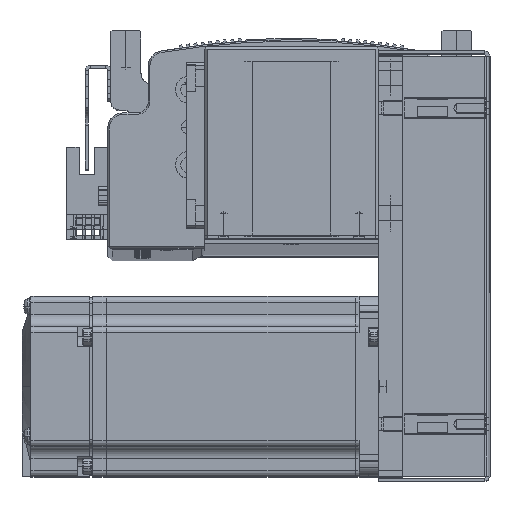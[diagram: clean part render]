
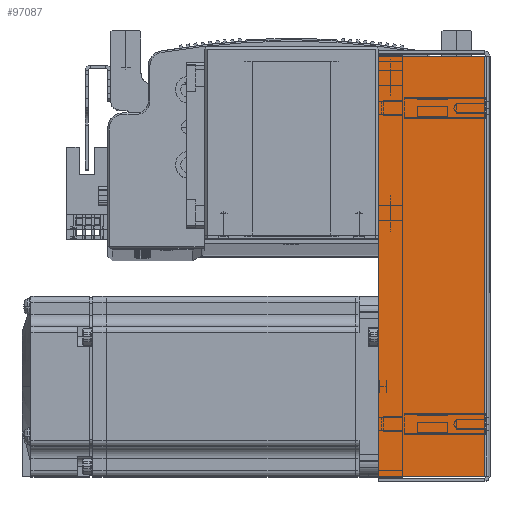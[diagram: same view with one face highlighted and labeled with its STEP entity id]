
A CAD part, top view. The second image highlights one B-rep face of the part: STEP entity #97087.
In plain terms, the highlighted planar face has unit normal (0, 0, 1).
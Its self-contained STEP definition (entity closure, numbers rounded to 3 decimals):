
#10397 = ORIENTED_EDGE ( 'NONE', *, *, #96925, .T. ) ;
#10428 = ORIENTED_EDGE ( 'NONE', *, *, #96987, .F. ) ;
#10460 = ORIENTED_EDGE ( 'NONE', *, *, #97023, .F. ) ;
#10500 = ORIENTED_EDGE ( 'NONE', *, *, #96842, .T. ) ;
#14901 = VERTEX_POINT ( 'NONE', #96721 ) ;
#14908 = VERTEX_POINT ( 'NONE', #96716 ) ;
#14915 = VERTEX_POINT ( 'NONE', #96730 ) ;
#14954 = VERTEX_POINT ( 'NONE', #83203 ) ;
#17197 = CARTESIAN_POINT ( 'NONE',  ( 69.793, 0., 33.5 ) ) ;
#17206 = DIRECTION ( 'NONE',  ( 0., 1., 0. ) ) ;
#17224 = CARTESIAN_POINT ( 'NONE',  ( 0., 0., 33.5 ) ) ;
#17505 = DIRECTION ( 'NONE',  ( -1., 0., 0. ) ) ;
#17574 = CARTESIAN_POINT ( 'NONE',  ( 0., 36., 33.5 ) ) ;
#17691 = DIRECTION ( 'NONE',  ( 0., 0., -1. ) ) ;
#17911 = DIRECTION ( 'NONE',  ( 0., 1., 0. ) ) ;
#17939 = CARTESIAN_POINT ( 'NONE',  ( -69.793, 0., 33.5 ) ) ;
#18206 = CARTESIAN_POINT ( 'NONE',  ( -71.5, 0.737, 33.5 ) ) ;
#18237 = DIRECTION ( 'NONE',  ( -1., 0., 0. ) ) ;
#18604 = PLANE ( 'NONE',  #21161 ) ;
#21161 = AXIS2_PLACEMENT_3D ( 'NONE', #17224, #17691, #24847 ) ;
#22610 = LINE ( 'NONE', #17197, #22644 ) ;
#22644 = VECTOR ( 'NONE', #17206, 1000. ) ;
#22843 = LINE ( 'NONE', #17574, #22950 ) ;
#22950 = VECTOR ( 'NONE', #17505, 1000. ) ;
#23010 = VECTOR ( 'NONE', #17911, 1000. ) ;
#23092 = LINE ( 'NONE', #17939, #23010 ) ;
#23150 = VECTOR ( 'NONE', #18237, 1000. ) ;
#23186 = LINE ( 'NONE', #18206, #23150 ) ;
#23288 = FACE_OUTER_BOUND ( 'NONE', #34852, .T. ) ;
#24847 = DIRECTION ( 'NONE',  ( -1., 0., 0. ) ) ;
#34852 = EDGE_LOOP ( 'NONE', ( #10460, #10500, #10397, #10428 ) ) ;
#83203 = CARTESIAN_POINT ( 'NONE',  ( -69.793, 0.737, 33.5 ) ) ;
#96716 = CARTESIAN_POINT ( 'NONE',  ( 69.793, 0.737, 33.5 ) ) ;
#96721 = CARTESIAN_POINT ( 'NONE',  ( -69.793, 36., 33.5 ) ) ;
#96730 = CARTESIAN_POINT ( 'NONE',  ( 69.793, 36., 33.5 ) ) ;
#96842 = EDGE_CURVE ( 'NONE', #14908, #14915, #22610, .T. ) ;
#96925 = EDGE_CURVE ( 'NONE', #14915, #14901, #22843, .T. ) ;
#96987 = EDGE_CURVE ( 'NONE', #14954, #14901, #23092, .T. ) ;
#97023 = EDGE_CURVE ( 'NONE', #14908, #14954, #23186, .T. ) ;
#97087 = ADVANCED_FACE ( 'NONE', ( #23288 ), #18604, .F. ) ;
